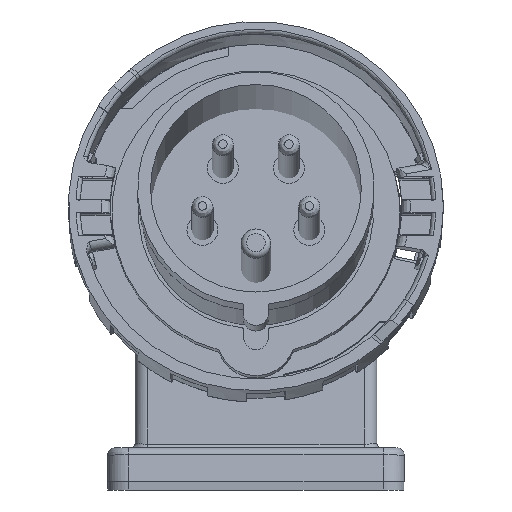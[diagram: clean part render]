
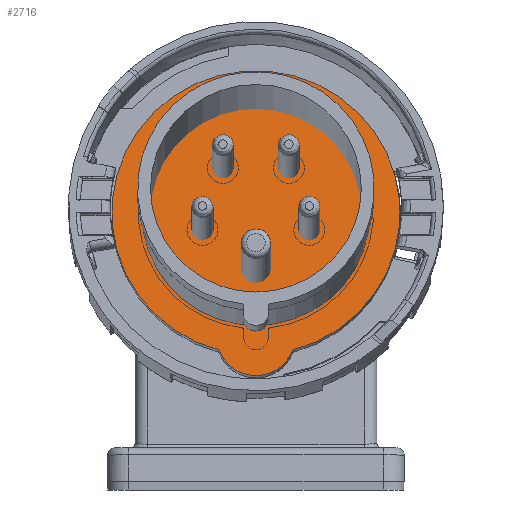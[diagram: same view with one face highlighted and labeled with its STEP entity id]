
A CAD part, front view. The second image highlights one B-rep face of the part: STEP entity #2716.
In plain terms, the highlighted planar face has unit normal (0, -0.985, 0.174).
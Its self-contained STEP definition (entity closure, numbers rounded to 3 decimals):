
#1998=PLANE('',#9844);
#2716=ADVANCED_FACE('',(#3167),#1998,.T.);
#3167=FACE_OUTER_BOUND('',#3540,.T.);
#3540=EDGE_LOOP('',(#5251,#5252));
#3940=CIRCLE('',#9838,34.);
#3943=CIRCLE('',#9842,9.2);
#5251=ORIENTED_EDGE('',*,*,#7823,.T.);
#5252=ORIENTED_EDGE('',*,*,#7819,.T.);
#6689=VERTEX_POINT('',#21338);
#6691=VERTEX_POINT('',#21341);
#7819=EDGE_CURVE('',#6691,#6689,#3940,.T.);
#7823=EDGE_CURVE('',#6689,#6691,#3943,.T.);
#9838=AXIS2_PLACEMENT_3D('',#21340,#10961,#10962);
#9842=AXIS2_PLACEMENT_3D('',#21347,#10970,#10971);
#9844=AXIS2_PLACEMENT_3D('',#21349,#10974,#10975);
#10961=DIRECTION('',(0.,-0.985,0.174));
#10962=DIRECTION('',(1.,0.,0.));
#10970=DIRECTION('',(0.,-0.985,0.174));
#10971=DIRECTION('',(1.,0.,0.));
#10974=DIRECTION('',(0.,-0.985,0.174));
#10975=DIRECTION('',(-1.,0.,0.));
#21338=CARTESIAN_POINT('',(-8.671,-19.668,-83.15));
#21340=CARTESIAN_POINT('',(0.,-13.959,-50.774));
#21341=CARTESIAN_POINT('',(8.671,-19.668,-83.15));
#21347=CARTESIAN_POINT('',(0.,-19.134,-80.121));
#21349=CARTESIAN_POINT('',(-40.8,-21.999,-96.371));
